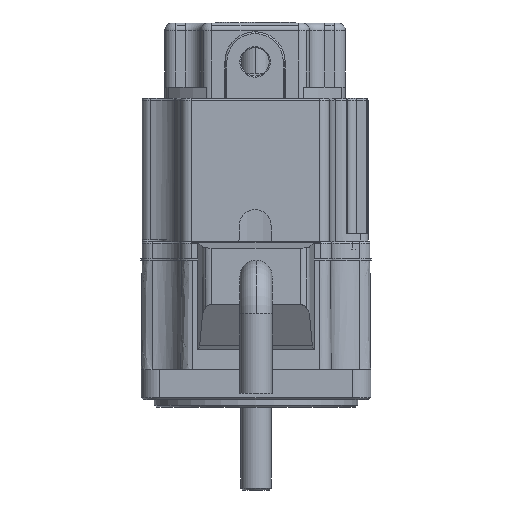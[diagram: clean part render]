
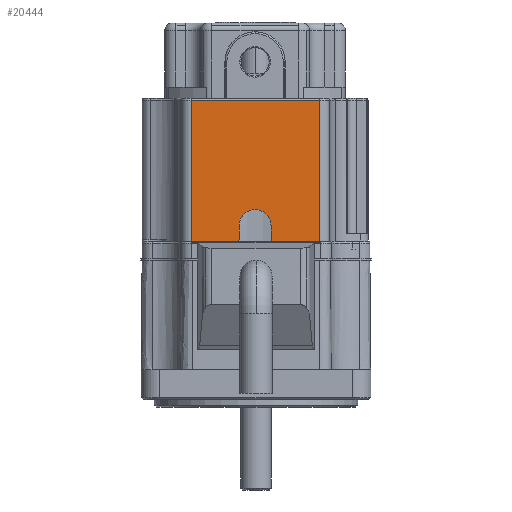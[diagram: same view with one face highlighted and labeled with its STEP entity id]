
A CAD part, front view. The second image highlights one B-rep face of the part: STEP entity #20444.
In plain terms, the highlighted planar face has unit normal (0, -1, 0).
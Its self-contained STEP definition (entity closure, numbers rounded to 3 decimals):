
#6 = CIRCLE ( 'NONE', #19234, 0.5 ) ;
#70 = CARTESIAN_POINT ( 'NONE',  ( 17., -30., 37.5 ) ) ;
#422 = DIRECTION ( 'NONE',  ( -0.707, 0., -0.707 ) ) ;
#502 = DIRECTION ( 'NONE',  ( 0., 1., 0. ) ) ;
#777 = EDGE_CURVE ( 'NONE', #6475, #32281, #3411, .T. ) ;
#967 = DIRECTION ( 'NONE',  ( 0., 0., 1. ) ) ;
#1325 = VERTEX_POINT ( 'NONE', #10062 ) ;
#1471 = LINE ( 'NONE', #24479, #33427 ) ;
#1963 = ORIENTED_EDGE ( 'NONE', *, *, #3286, .T. ) ;
#2115 = ORIENTED_EDGE ( 'NONE', *, *, #17677, .F. ) ;
#2984 = EDGE_CURVE ( 'NONE', #7660, #26192, #26981, .T. ) ;
#3286 = EDGE_CURVE ( 'NONE', #7660, #1325, #27085, .T. ) ;
#3411 = CIRCLE ( 'NONE', #23681, 0.5 ) ;
#3808 = LINE ( 'NONE', #27450, #14187 ) ;
#4766 = DIRECTION ( 'NONE',  ( 1., 0., 0. ) ) ;
#5010 = CARTESIAN_POINT ( 'NONE',  ( 4.75, -30., 0.5 ) ) ;
#5376 = ORIENTED_EDGE ( 'NONE', *, *, #7178, .T. ) ;
#5665 = EDGE_CURVE ( 'NONE', #32161, #6475, #6345, .T. ) ;
#6213 = DIRECTION ( 'NONE',  ( 1., 0., 0. ) ) ;
#6345 = CIRCLE ( 'NONE', #15110, 0.5 ) ;
#6475 = VERTEX_POINT ( 'NONE', #31529 ) ;
#7178 = EDGE_CURVE ( 'NONE', #1325, #14411, #21313, .T. ) ;
#7266 = DIRECTION ( 'NONE',  ( 0., 0., -1. ) ) ;
#7660 = VERTEX_POINT ( 'NONE', #8758 ) ;
#8226 = EDGE_CURVE ( 'NONE', #12248, #26946, #11253, .T. ) ;
#8758 = CARTESIAN_POINT ( 'NONE',  ( 4.75, -30., 0. ) ) ;
#9499 = CARTESIAN_POINT ( 'NONE',  ( -17., -30., 0. ) ) ;
#9505 = CARTESIAN_POINT ( 'NONE',  ( -17., -30., 0. ) ) ;
#9686 = CARTESIAN_POINT ( 'NONE',  ( -17., -30., 0. ) ) ;
#9713 = CARTESIAN_POINT ( 'NONE',  ( -4.25, -30., 4.2 ) ) ;
#9723 = EDGE_LOOP ( 'NONE', ( #31092, #1963, #5376, #2115, #17362, #30905, #12428, #17370, #26327, #16849, #15860, #26321 ) ) ;
#10062 = CARTESIAN_POINT ( 'NONE',  ( 17., -30., 0. ) ) ;
#11253 = LINE ( 'NONE', #21548, #11893 ) ;
#11366 = VECTOR ( 'NONE', #12745, 1000. ) ;
#11613 = VERTEX_POINT ( 'NONE', #9713 ) ;
#11893 = VECTOR ( 'NONE', #26501, 1000. ) ;
#11996 = CARTESIAN_POINT ( 'NONE',  ( -17., -30., 37.5 ) ) ;
#12248 = VERTEX_POINT ( 'NONE', #22819 ) ;
#12428 = ORIENTED_EDGE ( 'NONE', *, *, #777, .F. ) ;
#12692 = DIRECTION ( 'NONE',  ( 0., 1., 0. ) ) ;
#12745 = DIRECTION ( 'NONE',  ( 0., 0., 1. ) ) ;
#12829 = CARTESIAN_POINT ( 'NONE',  ( -4.75, -30., 0.5 ) ) ;
#13749 = CARTESIAN_POINT ( 'NONE',  ( 4.75, -30., 0. ) ) ;
#14187 = VECTOR ( 'NONE', #32072, 1000. ) ;
#14411 = VERTEX_POINT ( 'NONE', #70 ) ;
#14563 = LINE ( 'NONE', #11996, #22188 ) ;
#14943 = VERTEX_POINT ( 'NONE', #33637 ) ;
#15081 = DIRECTION ( 'NONE',  ( 0.707, 0., -0.707 ) ) ;
#15110 = AXIS2_PLACEMENT_3D ( 'NONE', #30335, #12692, #15081 ) ;
#15221 = EDGE_CURVE ( 'NONE', #26192, #26946, #6, .T. ) ;
#15329 = EDGE_CURVE ( 'NONE', #11613, #12248, #24680, .T. ) ;
#15456 = AXIS2_PLACEMENT_3D ( 'NONE', #9499, #19939, #7266 ) ;
#15860 = ORIENTED_EDGE ( 'NONE', *, *, #8226, .T. ) ;
#16489 = DIRECTION ( 'NONE',  ( 1., 0., 0. ) ) ;
#16849 = ORIENTED_EDGE ( 'NONE', *, *, #15329, .T. ) ;
#16870 = VECTOR ( 'NONE', #6213, 1000. ) ;
#17362 = ORIENTED_EDGE ( 'NONE', *, *, #23947, .F. ) ;
#17370 = ORIENTED_EDGE ( 'NONE', *, *, #5665, .F. ) ;
#17398 = LINE ( 'NONE', #9686, #22599 ) ;
#17677 = EDGE_CURVE ( 'NONE', #14943, #14411, #14563, .T. ) ;
#18551 = CARTESIAN_POINT ( 'NONE',  ( 0., -30., 4.2 ) ) ;
#18759 = CARTESIAN_POINT ( 'NONE',  ( 17., -30., 0. ) ) ;
#18800 = AXIS2_PLACEMENT_3D ( 'NONE', #26346, #21212, #422 ) ;
#19234 = AXIS2_PLACEMENT_3D ( 'NONE', #5010, #30716, #28119 ) ;
#19939 = DIRECTION ( 'NONE',  ( 0., -1., 0. ) ) ;
#20444 = ADVANCED_FACE ( 'NONE', ( #22839 ), #27469, .T. ) ;
#20814 = EDGE_CURVE ( 'NONE', #32161, #11613, #1471, .T. ) ;
#21212 = DIRECTION ( 'NONE',  ( 0., 1., 0. ) ) ;
#21313 = LINE ( 'NONE', #18759, #11366 ) ;
#21548 = CARTESIAN_POINT ( 'NONE',  ( 4.25, -30., 4.2 ) ) ;
#22188 = VECTOR ( 'NONE', #4766, 1000. ) ;
#22599 = VECTOR ( 'NONE', #25439, 1000. ) ;
#22819 = CARTESIAN_POINT ( 'NONE',  ( 4.25, -30., 4.2 ) ) ;
#22839 = FACE_OUTER_BOUND ( 'NONE', #9723, .T. ) ;
#23275 = DIRECTION ( 'NONE',  ( 0.707, 0., -0.707 ) ) ;
#23609 = CARTESIAN_POINT ( 'NONE',  ( 4.396, -30., 0.146 ) ) ;
#23681 = AXIS2_PLACEMENT_3D ( 'NONE', #12829, #33378, #23275 ) ;
#23947 = EDGE_CURVE ( 'NONE', #30347, #14943, #3808, .T. ) ;
#24479 = CARTESIAN_POINT ( 'NONE',  ( -4.25, -30., 0.5 ) ) ;
#24680 = CIRCLE ( 'NONE', #29043, 4.25 ) ;
#25439 = DIRECTION ( 'NONE',  ( 1., 0., 0. ) ) ;
#26192 = VERTEX_POINT ( 'NONE', #23609 ) ;
#26321 = ORIENTED_EDGE ( 'NONE', *, *, #15221, .F. ) ;
#26327 = ORIENTED_EDGE ( 'NONE', *, *, #20814, .T. ) ;
#26346 = CARTESIAN_POINT ( 'NONE',  ( 4.75, -30., 0.5 ) ) ;
#26501 = DIRECTION ( 'NONE',  ( 0., 0., -1. ) ) ;
#26946 = VERTEX_POINT ( 'NONE', #33632 ) ;
#26981 = CIRCLE ( 'NONE', #18800, 0.5 ) ;
#27085 = LINE ( 'NONE', #13749, #16870 ) ;
#27450 = CARTESIAN_POINT ( 'NONE',  ( -17., -30., 0. ) ) ;
#27469 = PLANE ( 'NONE',  #15456 ) ;
#27658 = EDGE_CURVE ( 'NONE', #30347, #32281, #17398, .T. ) ;
#28119 = DIRECTION ( 'NONE',  ( -0.707, 0., -0.707 ) ) ;
#29043 = AXIS2_PLACEMENT_3D ( 'NONE', #18551, #502, #16489 ) ;
#29247 = CARTESIAN_POINT ( 'NONE',  ( -4.75, -30., 0. ) ) ;
#30335 = CARTESIAN_POINT ( 'NONE',  ( -4.75, -30., 0.5 ) ) ;
#30347 = VERTEX_POINT ( 'NONE', #9505 ) ;
#30716 = DIRECTION ( 'NONE',  ( 0., 1., 0. ) ) ;
#30905 = ORIENTED_EDGE ( 'NONE', *, *, #27658, .T. ) ;
#30974 = CARTESIAN_POINT ( 'NONE',  ( -4.25, -30., 0.5 ) ) ;
#31092 = ORIENTED_EDGE ( 'NONE', *, *, #2984, .F. ) ;
#31529 = CARTESIAN_POINT ( 'NONE',  ( -4.396, -30., 0.146 ) ) ;
#32072 = DIRECTION ( 'NONE',  ( 0., 0., 1. ) ) ;
#32161 = VERTEX_POINT ( 'NONE', #30974 ) ;
#32281 = VERTEX_POINT ( 'NONE', #29247 ) ;
#33378 = DIRECTION ( 'NONE',  ( 0., 1., 0. ) ) ;
#33427 = VECTOR ( 'NONE', #967, 1000. ) ;
#33632 = CARTESIAN_POINT ( 'NONE',  ( 4.25, -30., 0.5 ) ) ;
#33637 = CARTESIAN_POINT ( 'NONE',  ( -17., -30., 37.5 ) ) ;
